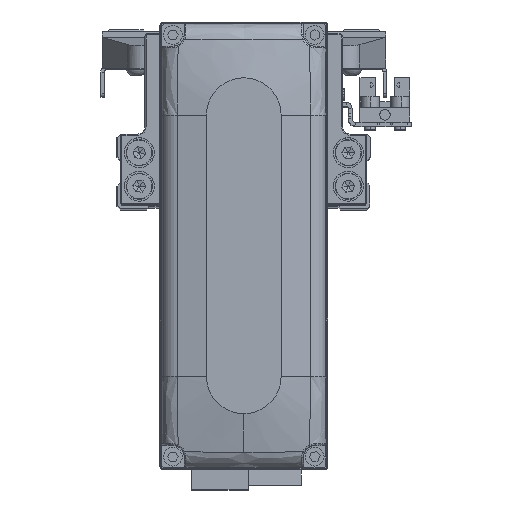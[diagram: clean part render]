
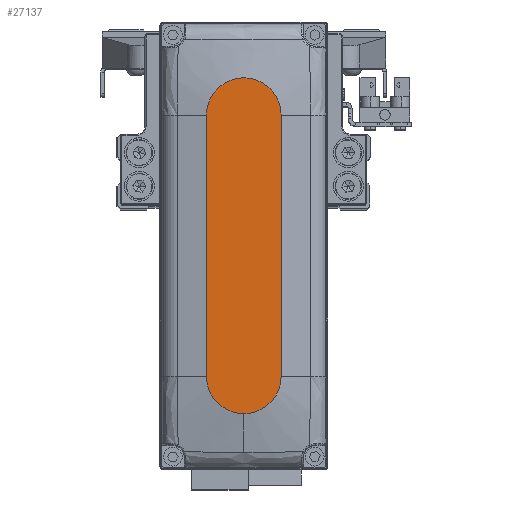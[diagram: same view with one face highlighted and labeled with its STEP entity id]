
A CAD part, top view. The second image highlights one B-rep face of the part: STEP entity #27137.
In plain terms, the highlighted planar face has unit normal (0, 0, 1).
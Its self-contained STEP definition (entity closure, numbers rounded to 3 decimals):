
#863 = CIRCLE ( 'NONE', #6352, 10. ) ;
#1301 = CIRCLE ( 'NONE', #25367, 10. ) ;
#1868 = DIRECTION ( 'NONE',  ( 1., 0., 0. ) ) ;
#2130 = EDGE_CURVE ( 'NONE', #10783, #9705, #1301, .T. ) ;
#3358 = EDGE_CURVE ( 'NONE', #22386, #18739, #6983, .T. ) ;
#4607 = LINE ( 'NONE', #17747, #37074 ) ;
#6352 = AXIS2_PLACEMENT_3D ( 'NONE', #27533, #40634, #11176 ) ;
#6983 = LINE ( 'NONE', #20103, #12377 ) ;
#8074 = CARTESIAN_POINT ( 'NONE',  ( 35., -10., 28. ) ) ;
#9705 = VERTEX_POINT ( 'NONE', #38083 ) ;
#10122 = CIRCLE ( 'NONE', #34157, 10. ) ;
#10634 = CARTESIAN_POINT ( 'NONE',  ( 35., 0., 28. ) ) ;
#10758 = ORIENTED_EDGE ( 'NONE', *, *, #3358, .T. ) ;
#10783 = VERTEX_POINT ( 'NONE', #35564 ) ;
#11176 = DIRECTION ( 'NONE',  ( 1., 0., 0. ) ) ;
#12282 = ORIENTED_EDGE ( 'NONE', *, *, #26915, .T. ) ;
#12377 = VECTOR ( 'NONE', #33250, 1000. ) ;
#12379 = CARTESIAN_POINT ( 'NONE',  ( -35., 10., 28. ) ) ;
#12560 = DIRECTION ( 'NONE',  ( 0., 0., 1. ) ) ;
#13816 = CARTESIAN_POINT ( 'NONE',  ( -35., -10., 28. ) ) ;
#15767 = FACE_OUTER_BOUND ( 'NONE', #23599, .T. ) ;
#17747 = CARTESIAN_POINT ( 'NONE',  ( -35., 10., 28. ) ) ;
#17854 = AXIS2_PLACEMENT_3D ( 'NONE', #42002, #12560, #25685 ) ;
#17950 = ORIENTED_EDGE ( 'NONE', *, *, #22973, .T. ) ;
#18240 = CARTESIAN_POINT ( 'NONE',  ( 35., 0., 28. ) ) ;
#18739 = VERTEX_POINT ( 'NONE', #8074 ) ;
#20103 = CARTESIAN_POINT ( 'NONE',  ( -35., -10., 28. ) ) ;
#20136 = VERTEX_POINT ( 'NONE', #12379 ) ;
#20799 = ORIENTED_EDGE ( 'NONE', *, *, #37867, .T. ) ;
#22386 = VERTEX_POINT ( 'NONE', #13816 ) ;
#22973 = EDGE_CURVE ( 'NONE', #20136, #22386, #863, .T. ) ;
#23599 = EDGE_LOOP ( 'NONE', ( #12282, #17950, #10758, #20799, #41987 ) ) ;
#23755 = DIRECTION ( 'NONE',  ( 0., 0., 1. ) ) ;
#25367 = AXIS2_PLACEMENT_3D ( 'NONE', #10634, #23755, #36877 ) ;
#25685 = DIRECTION ( 'NONE',  ( 1., 0., 0. ) ) ;
#26915 = EDGE_CURVE ( 'NONE', #9705, #20136, #4607, .T. ) ;
#27137 = ADVANCED_FACE ( 'NONE', ( #15767 ), #28897, .T. ) ;
#27533 = CARTESIAN_POINT ( 'NONE',  ( -35., 0., 28. ) ) ;
#28897 = PLANE ( 'NONE',  #17854 ) ;
#30862 = DIRECTION ( 'NONE',  ( -1., 0., 0. ) ) ;
#31361 = DIRECTION ( 'NONE',  ( 0., 0., 1. ) ) ;
#33250 = DIRECTION ( 'NONE',  ( 1., 0., 0. ) ) ;
#34157 = AXIS2_PLACEMENT_3D ( 'NONE', #18240, #31361, #1868 ) ;
#35564 = CARTESIAN_POINT ( 'NONE',  ( 45., 0., 28. ) ) ;
#36877 = DIRECTION ( 'NONE',  ( 1., 0., 0. ) ) ;
#37074 = VECTOR ( 'NONE', #30862, 1000. ) ;
#37867 = EDGE_CURVE ( 'NONE', #18739, #10783, #10122, .T. ) ;
#38083 = CARTESIAN_POINT ( 'NONE',  ( 35., 10., 28. ) ) ;
#40634 = DIRECTION ( 'NONE',  ( 0., 0., 1. ) ) ;
#41987 = ORIENTED_EDGE ( 'NONE', *, *, #2130, .T. ) ;
#42002 = CARTESIAN_POINT ( 'NONE',  ( 0., 0., 28. ) ) ;
